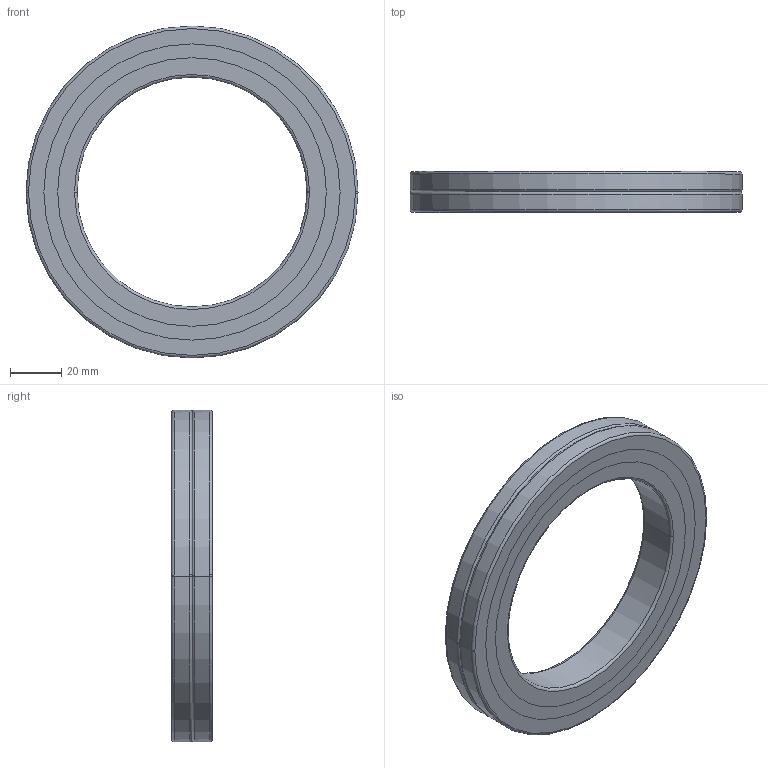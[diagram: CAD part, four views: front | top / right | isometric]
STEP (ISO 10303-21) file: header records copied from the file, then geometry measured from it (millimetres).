
FILE_DESCRIPTION(('no description'),'unknown implementation level');
FILE_NAME('CRBA09016_10.stp',' ',('HIWIN GmbH'),('CADClick - KiM GmbH - www.kimweb.de'),'unknown preprocess','ACIS','unknown authorization');
FILE_SCHEMA(('automotive_design'));
Length unit declared in the file: millimetre
Products named in the file (5): CRBA09016_1; CRBA09016_2; CRBA09016_3; CRBA09016_4; CRBA09016
Bounding box: 130 x 16 x 130 mm (x, y, z)
Volume: 85721 mm3; surface area: 46302.5 mm2
Topology: 5 solids, 5 shells, 54 faces, 120 edges, 76 vertices
Faces by surface type: torus 24, cylinder 20, plane 10
Entity records: 3096 total; most frequent: DIRECTION 338, STYLED_ITEM 255, PRESENTATION_STYLE_ASSIGNMENT 255, CARTESIAN_POINT 255, COLOUR_RGB 255, ORIENTED_EDGE 240, AXIS2_PLACEMENT_3D 159, EDGE_CURVE 120
